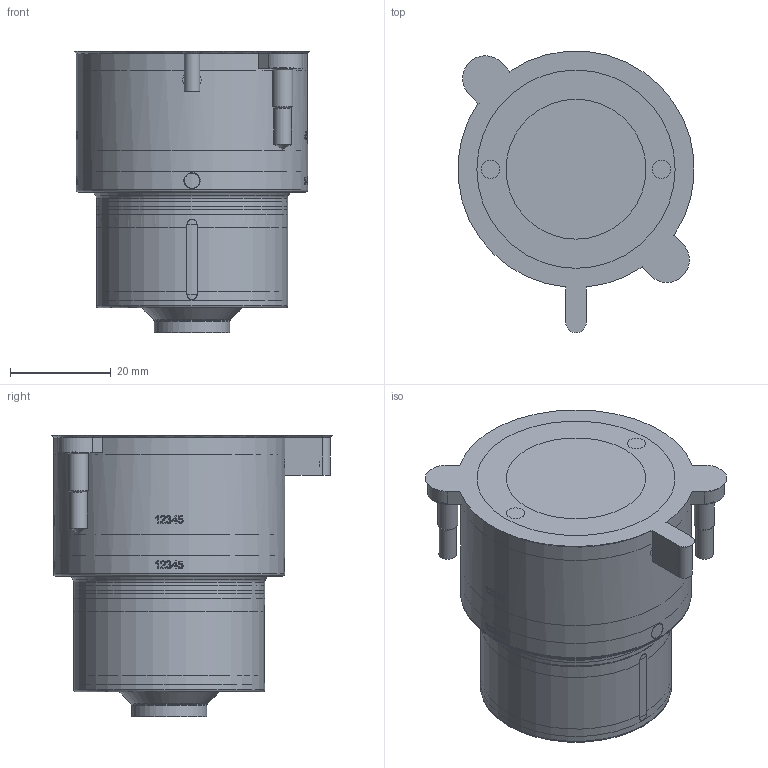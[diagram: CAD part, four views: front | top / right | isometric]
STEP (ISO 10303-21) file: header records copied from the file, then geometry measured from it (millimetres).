
FILE_DESCRIPTION(/* description */ (''),/* implementation_level */ '2;1');
FILE_NAME(/* name */ '83-005-013_CoolingInsertAssemblyTT-IT-OTX13-56.stp',/* time_stamp */ '2021-09-22T14:16:54+12:00',/* author */ (''),/* organization */ (''),/* preprocessor_version */ 'ST-DEVELOPER v16.7',/* originating_system */ 'SIEMENS PLM Software NX 12.0',/* authorisation */ '');
FILE_SCHEMA (('AP203_CONFIGURATION_CONTROLLED_3D_DESIGN_OF_MECHANICAL_PARTS_AND_ASSEMBLIES_MIM_LF { 1 0 10303 403 2 1 2}'));
Length unit declared in the file: millimetre
Products named in the file (1): Matt09681A55syg3
Bounding box: 46.87 x 55.93 x 56 mm (x, y, z)
Volume: 113494.4 mm3; surface area: 31021.4 mm2
Topology: 12 solids, 12 shells, 659 faces, 1635 edges, 1070 vertices
Faces by surface type: plane 286, cylinder 227, extrusion 57, cone 45, torus 31, revolution 8, bspline 5
Full cylindrical faces by diameter (mm): 0.421 x2, 0.9 x1, 3 x3, 3.02 x4, 3.05 x4, 3.5 x2, 4 x2, 7.6 x2, 10.01 x1, 14.795 x1, 14.995 x1, 15.01 x1, 23.2 x2, 27 x1, 27.2 x1, 28.4 x2, 34.7 x2, 37.8 x1, 37.94 x2, 38 x2, 40 x2, 45.8 x2, 46 x1
Entity records: 26831 total; most frequent: CARTESIAN_POINT 11894, ORIENTED_EDGE 2912, DIRECTION 2712, EDGE_CURVE 1456, VERTEX_POINT 1027, AXIS2_PLACEMENT_3D 989, EDGE_LOOP 855, VECTOR 726
